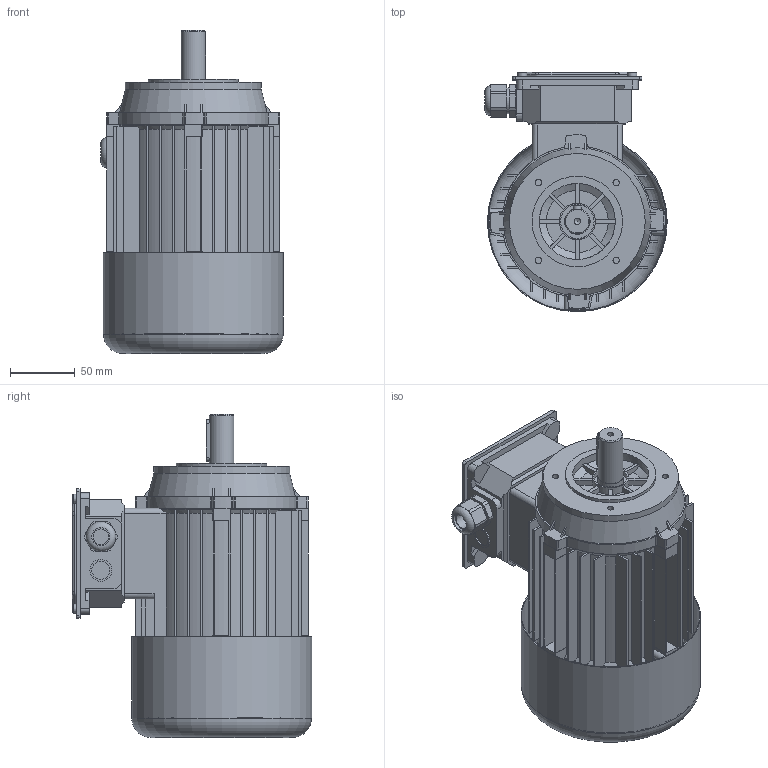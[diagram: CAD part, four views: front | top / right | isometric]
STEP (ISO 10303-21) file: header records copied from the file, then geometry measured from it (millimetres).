
FILE_DESCRIPTION(/* description */ (''),/* implementation_level */ '2;1');
FILE_NAME(/* name */ 'C:\Users\Public\Documents\Autodesk\Inventor LT 2014\Workspace\Componenti_ecoPM\2 - ECO5_71 (TG4)\ECO5_71_xxA4_xx.stp',/* time_stamp */ '2021-07-28T16:17:37+02:00',/* author */ ('marcor'),/* organization */ (''),/* preprocessor_version */ 'ST-DEVELOPER v15.2',/* originating_system */ 'Autodesk Inventor LT ',/* authorisation */ '');
FILE_SCHEMA (('AUTOMOTIVE_DESIGN { 1 0 10303 214 3 1 1 }'));
Length unit declared in the file: millimetre
Products named in the file (1): ECO5_71_xxA4_xx_FULL
Bounding box: 141 x 184.9 x 249.7 mm (x, y, z)
Volume: 2155059 mm3; surface area: 275940.7 mm2
Topology: 2 solids, 6 shells, 627 faces, 1646 edges, 1072 vertices
Faces by surface type: plane 413, cylinder 168, cone 34, bspline 8, torus 4
Full cylindrical faces by diameter (mm): 3 x4, 3.2 x4, 4.917 x5, 7 x4, 7.5 x4, 12 x1, 13.95 x2, 14 x1, 17 x2, 18 x1, 19 x1, 19.9 x1, 20 x2, 23.5 x1, 26 x2, 28 x1, 28.8 x1, 58.8 x1, 70 x1, 75 x1, 105 x1, 106.2 x1, 137.8 x1, 139 x1
Entity records: 18792 total; most frequent: CARTESIAN_POINT 3681, DIRECTION 3134, ORIENTED_EDGE 3110, EDGE_CURVE 1555, AXIS2_PLACEMENT_3D 1091, VERTEX_POINT 1048, LINE 952, VECTOR 952
